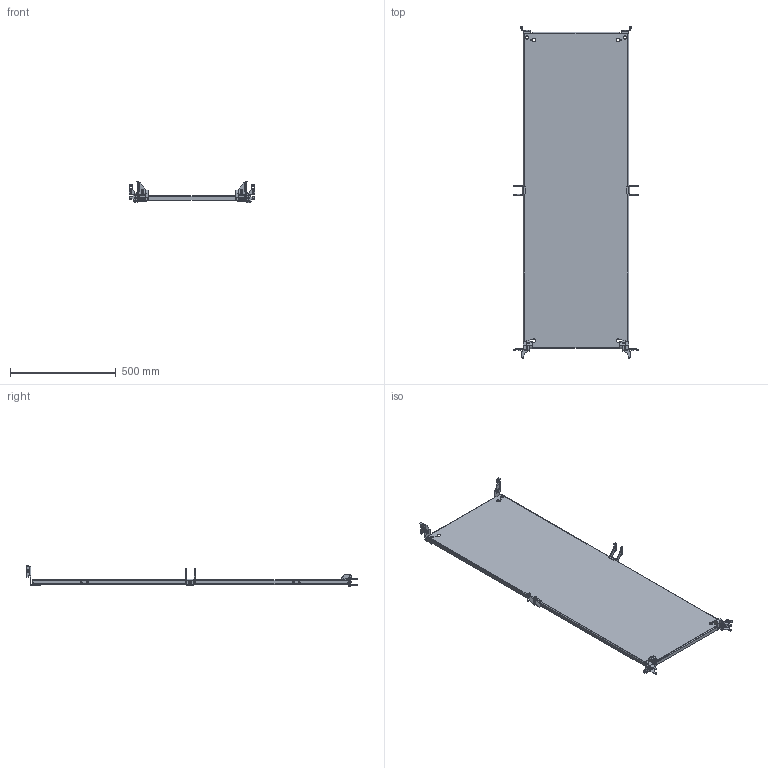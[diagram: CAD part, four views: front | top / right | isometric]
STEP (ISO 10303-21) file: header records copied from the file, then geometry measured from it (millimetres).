
FILE_DESCRIPTION (( 'STEP AP214' ), '1' );
FILE_NAME ('MSD 160.60 ÑÁ Ìîíòàæíàÿ ïàíåëü â ñáîðå.STEP', '2023-12-11T04:45:17', ( '' ), ( '' ), 'SwSTEP 2.0', 'SolidWorks 2019', '' );
FILE_SCHEMA (( 'AUTOMOTIVE_DESIGN' ));
Length unit declared in the file: millimetre
Products named in the file (8): TS-011_R Íèæíèé äåðæàòåëü ìîíòàæíîé ïàíåëè; BMD 6 Ôèêñàòîð ìîíòàæíîé ïàíåëè; MSD X.Y Ìîíòàæíàÿ ïàíåëü_MSD 160.60 Œ®­â ¦­ ï ¯ ­¥«ì; TS-011_L Íèæíèé äåðæàòåëü ìîíòàæíîé ïàíåëè; MSD 160.60 ÑÁ Ìîíòàæíàÿ ïàíåëü â ñáîðå; TS-010_R Âåðõíèé äåðæàòåëü ìîíòàæíîé ïàíåëè; TS-012 Íèæíèé äåðæàòåëü ìîíòàæíîé ïàíåëè; TS-010_L Âåðõíèé äåðæàòåëü ìîíòàæíîé ïàíåëè
Assembly tree (9 placements, depth 2):
  MSD 160.60 ÑÁ Ìîíòàæíàÿ ïàíåëü â ñáîðå
    MSD X.Y Ìîíòàæíàÿ ïàíåëü_MSD 160.60 Œ®­â ¦­ ï ¯ ­¥«ì
    TS-011_L Íèæíèé äåðæàòåëü ìîíòàæíîé ïàíåëè
    TS-011_R Íèæíèé äåðæàòåëü ìîíòàæíîé ïàíåëè
    TS-010_R Âåðõíèé äåðæàòåëü ìîíòàæíîé ïàíåëè
    TS-010_L Âåðõíèé äåðæàòåëü ìîíòàæíîé ïàíåëè
    TS-012 Íèæíèé äåðæàòåëü ìîíòàæíîé ïàíåëè  x2
    BMD 6 Ôèêñàòîð ìîíòàæíîé ïàíåëè  x2
Bounding box: 594 x 1571.5 x 103.7 mm (x, y, z)
Volume: 2316738.5 mm3; surface area: 1831403 mm2
Topology: 9 solids, 9 shells, 810 faces, 2202 edges, 1416 vertices
Faces by surface type: plane 450, cylinder 348, bspline 8, cone 4
Entity records: 20447 total; most frequent: CARTESIAN_POINT 3943, ORIENTED_EDGE 3396, DIRECTION 3384, EDGE_CURVE 1698, VECTOR 1156, LINE 1156, AXIS2_PLACEMENT_3D 1114, VERTEX_POINT 1094
